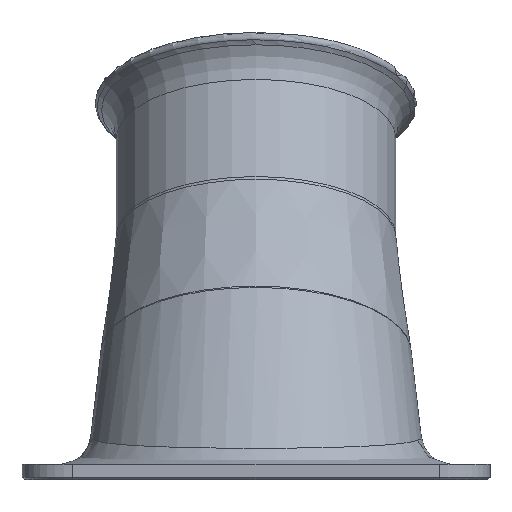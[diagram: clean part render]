
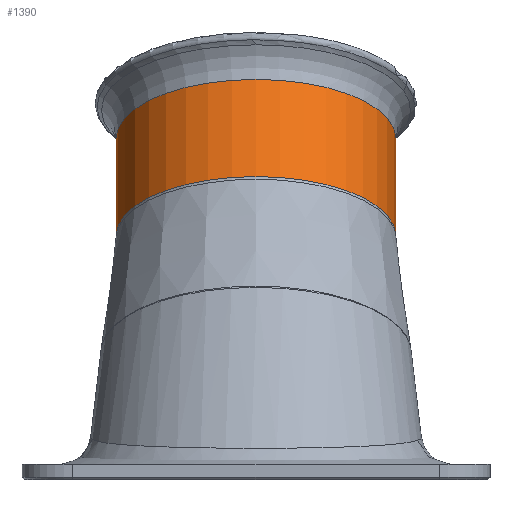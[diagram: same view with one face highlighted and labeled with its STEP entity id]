
A CAD part, front view. The second image highlights one B-rep face of the part: STEP entity #1390.
In plain terms, the highlighted cylindrical face has radius 27.5 mm (diameter 55 mm), a full revolution.
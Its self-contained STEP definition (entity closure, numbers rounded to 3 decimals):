
#37=CYLINDRICAL_SURFACE('',#1515,27.5);
#157=LINE('',#8099,#249);
#249=VECTOR('',#1820,27.5);
#312=CIRCLE('',#1516,27.5);
#313=CIRCLE('',#1517,27.5);
#314=CIRCLE('',#1518,27.5);
#315=CIRCLE('',#1519,27.5);
#389=FACE_OUTER_BOUND('',#474,.T.);
#474=EDGE_LOOP('',(#1129,#1130,#1131,#1132,#1133,#1134));
#651=VERTEX_POINT('',#8094);
#652=VERTEX_POINT('',#8095);
#653=VERTEX_POINT('',#8098);
#654=VERTEX_POINT('',#8100);
#834=EDGE_CURVE('',#651,#652,#312,.T.);
#835=EDGE_CURVE('',#652,#651,#313,.T.);
#836=EDGE_CURVE('',#651,#653,#157,.T.);
#837=EDGE_CURVE('',#653,#654,#314,.F.);
#838=EDGE_CURVE('',#654,#653,#315,.F.);
#1129=ORIENTED_EDGE('',*,*,#834,.T.);
#1130=ORIENTED_EDGE('',*,*,#835,.T.);
#1131=ORIENTED_EDGE('',*,*,#836,.T.);
#1132=ORIENTED_EDGE('',*,*,#837,.T.);
#1133=ORIENTED_EDGE('',*,*,#838,.T.);
#1134=ORIENTED_EDGE('',*,*,#836,.F.);
#1390=ADVANCED_FACE('',(#389),#37,.T.);
#1515=AXIS2_PLACEMENT_3D('',#8093,#1814,#1815);
#1516=AXIS2_PLACEMENT_3D('',#8096,#1816,#1817);
#1517=AXIS2_PLACEMENT_3D('',#8097,#1818,#1819);
#1518=AXIS2_PLACEMENT_3D('',#8101,#1821,#1822);
#1519=AXIS2_PLACEMENT_3D('',#8102,#1823,#1824);
#1814=DIRECTION('center_axis',(0.,-0.423,-0.906));
#1815=DIRECTION('ref_axis',(0.,0.906,-0.423));
#1816=DIRECTION('center_axis',(0.,0.423,0.906));
#1817=DIRECTION('ref_axis',(0.,-0.906,0.423));
#1818=DIRECTION('center_axis',(0.,0.423,0.906));
#1819=DIRECTION('ref_axis',(0.,-0.906,0.423));
#1820=DIRECTION('',(0.,0.423,0.906));
#1821=DIRECTION('center_axis',(0.,0.423,
0.906));
#1822=DIRECTION('ref_axis',(0.,-0.906,0.423));
#1823=DIRECTION('center_axis',(0.,0.423,
0.906));
#1824=DIRECTION('ref_axis',(0.,-0.906,0.423));
#8093=CARTESIAN_POINT('Origin',(0.,50.279,76.415));
#8094=CARTESIAN_POINT('',(0.,14.916,65.65));
#8095=CARTESIAN_POINT('',(0.,64.763,42.406));
#8096=CARTESIAN_POINT('Origin',(0.,39.84,54.028));
#8097=CARTESIAN_POINT('Origin',(0.,39.84,54.028));
#8098=CARTESIAN_POINT('',(0.,23.82,84.744));
#8099=CARTESIAN_POINT('',(0.,25.355,88.037));
#8100=CARTESIAN_POINT('',(0.,73.667,61.5));
#8101=CARTESIAN_POINT('Origin',(0.,48.743,73.122));
#8102=CARTESIAN_POINT('Origin',(0.,48.743,73.122));
